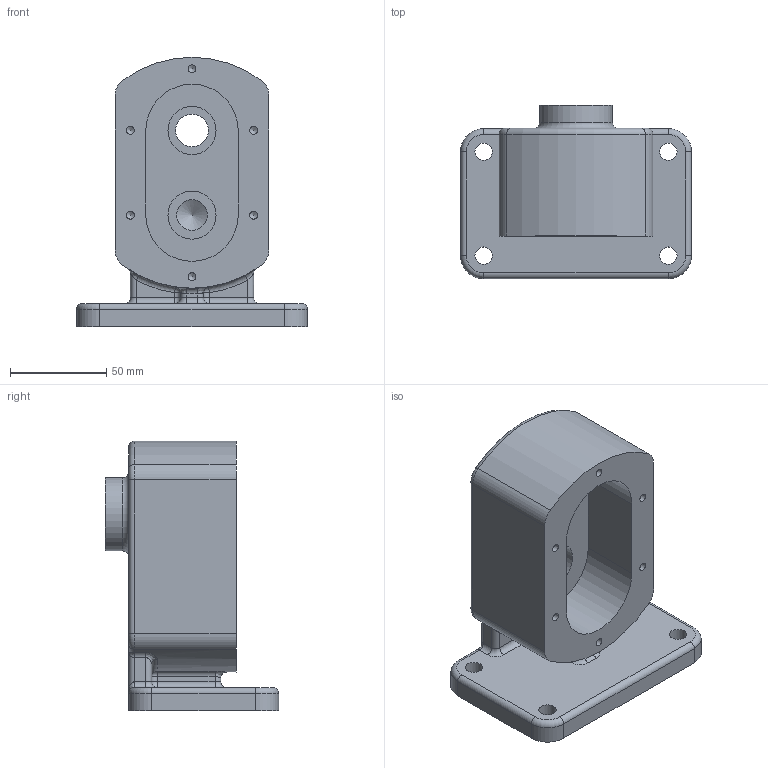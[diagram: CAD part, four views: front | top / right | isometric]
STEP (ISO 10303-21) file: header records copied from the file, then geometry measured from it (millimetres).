
FILE_DESCRIPTION(/* description */ (''),/* implementation_level */ '2;1');
FILE_NAME(/* name */ 'C:\Users\3sil_cad017\Desktop\620805E1002\620805E1002-본체.stp',/* time_stamp */ '2022-08-20T11:22:44+09:00',/* author */ ('3sil_cad017'),/* organization */ (''),/* preprocessor_version */ 'ST-DEVELOPER v16.1',/* originating_system */ 'Autodesk Inventor 2016',/* authorisation */ '');
FILE_SCHEMA (('AUTOMOTIVE_DESIGN { 1 0 10303 214 3 1 1 }'));
Length unit declared in the file: millimetre
Products named in the file (1): 01 본체
Bounding box: 120 x 90 x 140 mm (x, y, z)
Volume: 477110.5 mm3; surface area: 73062 mm2
Topology: 1 solids, 1 shells, 116 faces, 270 edges, 157 vertices
Faces by surface type: cylinder 53, plane 23, torus 20, bspline 8, cone 8, sphere 4
Full cylindrical faces by diameter (mm): 4.134 x6, 9 x4, 17 x1, 25 x2, 28 x1, 38 x1
Entity records: 3344 total; most frequent: CARTESIAN_POINT 807, DIRECTION 572, ORIENTED_EDGE 460, AXIS2_PLACEMENT_3D 245, EDGE_CURVE 230, EDGE_LOOP 156, VERTEX_POINT 146, CIRCLE 132
